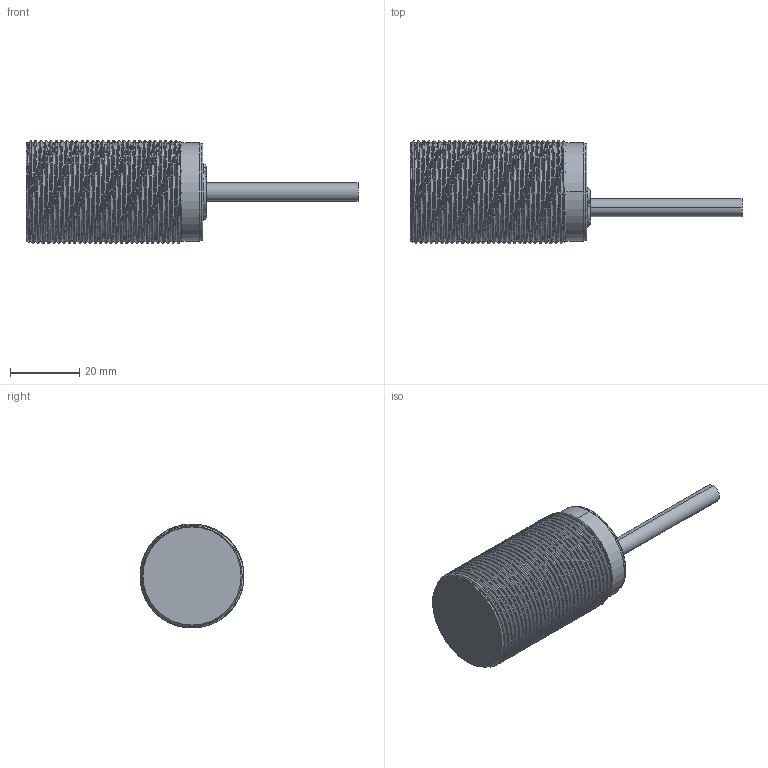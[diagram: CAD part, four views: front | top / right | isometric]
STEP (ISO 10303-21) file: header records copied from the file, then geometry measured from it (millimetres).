
FILE_DESCRIPTION((''),'2;1');
FILE_NAME('M30FLUSHCABLE_ASM','2020-10-28T',('Daisy.Wang'),(''),'CREO PARAMETRIC BY PTC INC, 2015480','CREO PARAMETRIC BY PTC INC, 2015480','');
FILE_SCHEMA(('CONFIG_CONTROL_DESIGN'));
Length unit declared in the file: millimetre
Products named in the file (11): MECK109M30HOUSINGFLUSH; M30-PC; COPPE-FOIL-COIL; 31828; M30-COIL-SUPPORT; 93-509_M30_CABLE_BACKPART_1MP70; 57-256CABLE; M30LONG_FLUSH_CABLE_PCB; ORING-M30BACKPART; O-RING-CABLE52MM; M30FLUSHCABLE_ASM
Assembly tree (10 placements, depth 2):
  M30FLUSHCABLE_ASM
    MECK109M30HOUSINGFLUSH
    M30-PC
    COPPE-FOIL-COIL
    31828
    M30-COIL-SUPPORT
    93-509_M30_CABLE_BACKPART_1MP70
    57-256CABLE
    M30LONG_FLUSH_CABLE_PCB
    ORING-M30BACKPART
    O-RING-CABLE52MM
Bounding box: 95.8 x 30 x 30 mm (x, y, z)
Volume: 13166.7 mm3; surface area: 22967.7 mm2
Topology: 10 solids, 10 shells, 372 faces, 937 edges, 593 vertices
Faces by surface type: cylinder 161, plane 92, bspline 45, torus 44, cone 26, sphere 4
Entity records: 26034 total; most frequent: CARTESIAN_POINT 17300, ORIENTED_EDGE 1874, DIRECTION 1656, EDGE_CURVE 937, AXIS2_PLACEMENT_3D 647, VERTEX_POINT 593, EDGE_LOOP 390, FACE_OUTER_BOUND 372
